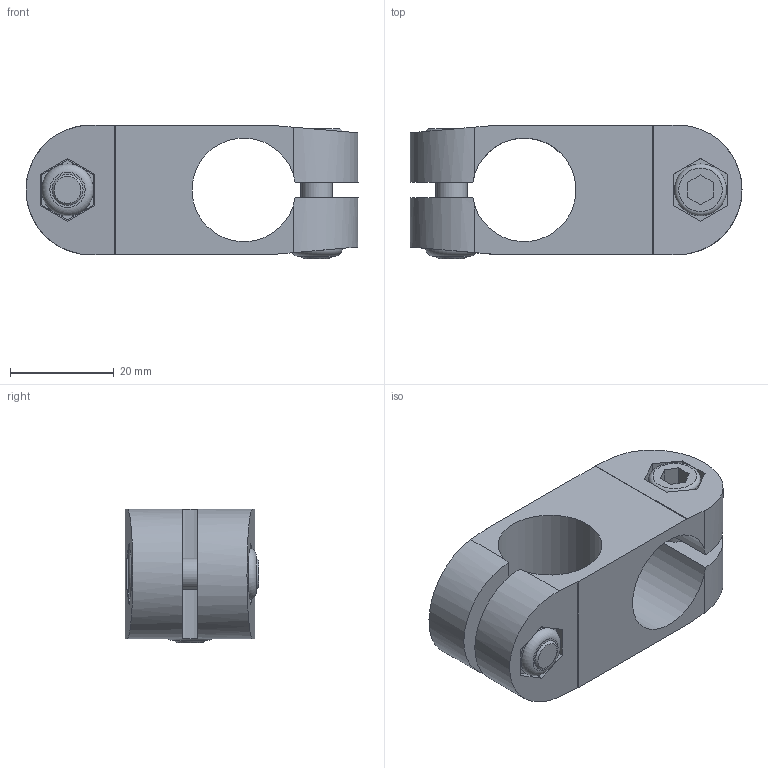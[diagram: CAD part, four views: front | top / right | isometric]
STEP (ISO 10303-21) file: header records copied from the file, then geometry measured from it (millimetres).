
FILE_DESCRIPTION( ( 'STEP AP203' ), '1' );
FILE_NAME( 'C:/Temp/Ganter_Step_05_03_2020/data/3_7/131/gn_131_1_ni/Stainless Steel-Two-way connector clamp GN 131-B20-B20-2-NI.stp', '2020-03-12T14:16:13', ( 'License CC BY-ND 4.0' ), ( 'CADENAS' ), ' ', 'PARTsolutions', ' ' );
FILE_SCHEMA( ( 'CONFIG_CONTROL_DESIGN' ) );
Length unit declared in the file: millimetre
Products named in the file (1): _Stainless Steel-Two-way connector clamp GN 131-B20-B20-2-NI
Bounding box: 64 x 25.8 x 25.8 mm (x, y, z)
Volume: 18329.6 mm3; surface area: 11574.9 mm2
Topology: 1 solids, 1 shells, 116 faces, 279 edges, 181 vertices
Faces by surface type: plane 88, cylinder 22, torus 4, cone 2
Full cylindrical faces by diameter (mm): 6 x4, 6.5 x4, 10 x4
Entity records: 3268 total; most frequent: CARTESIAN_POINT 573, DIRECTION 542, ORIENTED_EDGE 512, EDGE_CURVE 256, LINE 188, VECTOR 188, AXIS2_PLACEMENT_3D 177, VERTEX_POINT 176
